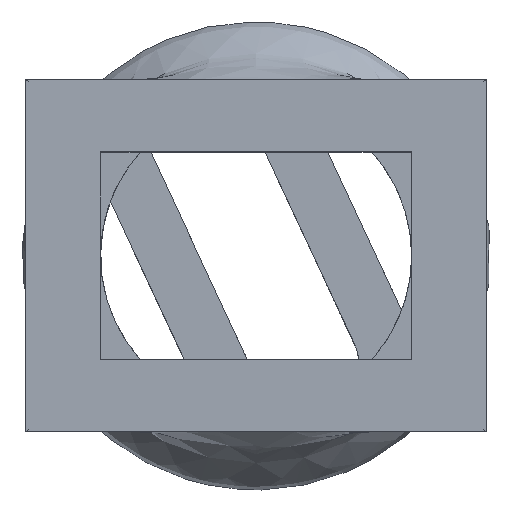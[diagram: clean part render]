
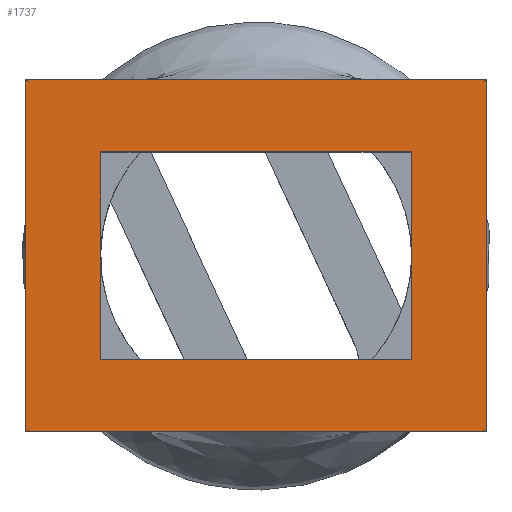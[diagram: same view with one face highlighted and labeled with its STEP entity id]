
A CAD part, top view. The second image highlights one B-rep face of the part: STEP entity #1737.
In plain terms, the highlighted planar face has unit normal (0, 0, 1).
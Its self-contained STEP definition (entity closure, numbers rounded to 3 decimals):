
#298=CARTESIAN_POINT('',(-11.11,-8.5,0.));
#299=VERTEX_POINT('',#298);
#310=CARTESIAN_POINT('',(-11.11,8.5,0.));
#311=VERTEX_POINT('',#310);
#312=CARTESIAN_POINT('',(-11.11,8.5,0.));
#313=DIRECTION('',(0.,-1.,0.));
#314=VECTOR('',#313,17.);
#315=LINE('',#312,#314);
#316=EDGE_CURVE('',#311,#299,#315,.T.);
#491=CARTESIAN_POINT('',(11.11,8.5,0.));
#492=VERTEX_POINT('',#491);
#493=CARTESIAN_POINT('',(11.11,8.5,0.));
#494=DIRECTION('',(-1.,0.,0.));
#495=VECTOR('',#494,22.22);
#496=LINE('',#493,#495);
#497=EDGE_CURVE('',#492,#311,#496,.T.);
#683=CARTESIAN_POINT('',(11.11,-8.5,0.));
#684=VERTEX_POINT('',#683);
#697=CARTESIAN_POINT('',(-11.11,-8.5,0.));
#698=DIRECTION('',(1.,0.,-0.));
#699=VECTOR('',#698,22.22);
#700=LINE('',#697,#699);
#701=EDGE_CURVE('',#299,#684,#700,.T.);
#816=CARTESIAN_POINT('',(11.11,-8.5,0.));
#817=DIRECTION('',(0.,1.,0.));
#818=VECTOR('',#817,17.);
#819=LINE('',#816,#818);
#820=EDGE_CURVE('',#684,#492,#819,.T.);
#1692=CARTESIAN_POINT('',(0.,0.,0.));
#1693=DIRECTION('',(0.,0.,-1.));
#1694=DIRECTION('',(-1.,0.,0.));
#1695=AXIS2_PLACEMENT_3D('',#1692,#1693,#1694);
#1696=PLANE('',#1695);
#1697=CARTESIAN_POINT('',(7.5,-5.,0.));
#1698=VERTEX_POINT('',#1697);
#1699=CARTESIAN_POINT('',(7.5,5.,0.));
#1700=VERTEX_POINT('',#1699);
#1701=CARTESIAN_POINT('',(7.5,-5.,0.));
#1702=DIRECTION('',(0.,1.,0.));
#1703=VECTOR('',#1702,10.);
#1704=LINE('',#1701,#1703);
#1705=EDGE_CURVE('',#1698,#1700,#1704,.T.);
#1706=ORIENTED_EDGE('',*,*,#1705,.F.);
#1707=CARTESIAN_POINT('',(-7.5,-5.,0.));
#1708=VERTEX_POINT('',#1707);
#1709=CARTESIAN_POINT('',(-7.5,-5.,0.));
#1710=DIRECTION('',(1.,0.,-0.));
#1711=VECTOR('',#1710,15.);
#1712=LINE('',#1709,#1711);
#1713=EDGE_CURVE('',#1708,#1698,#1712,.T.);
#1714=ORIENTED_EDGE('',*,*,#1713,.F.);
#1715=CARTESIAN_POINT('',(-7.5,5.,0.));
#1716=VERTEX_POINT('',#1715);
#1717=CARTESIAN_POINT('',(-7.5,5.,0.));
#1718=DIRECTION('',(0.,-1.,0.));
#1719=VECTOR('',#1718,10.);
#1720=LINE('',#1717,#1719);
#1721=EDGE_CURVE('',#1716,#1708,#1720,.T.);
#1722=ORIENTED_EDGE('',*,*,#1721,.F.);
#1723=CARTESIAN_POINT('',(7.5,5.,0.));
#1724=DIRECTION('',(-1.,0.,0.));
#1725=VECTOR('',#1724,15.);
#1726=LINE('',#1723,#1725);
#1727=EDGE_CURVE('',#1700,#1716,#1726,.T.);
#1728=ORIENTED_EDGE('',*,*,#1727,.F.);
#1729=EDGE_LOOP('',(#1706,#1714,#1722,#1728));
#1730=FACE_BOUND('',#1729,.T.);
#1731=ORIENTED_EDGE('',*,*,#820,.T.);
#1732=ORIENTED_EDGE('',*,*,#497,.T.);
#1733=ORIENTED_EDGE('',*,*,#316,.T.);
#1734=ORIENTED_EDGE('',*,*,#701,.T.);
#1735=EDGE_LOOP('',(#1731,#1732,#1733,#1734));
#1736=FACE_BOUND('',#1735,.T.);
#1737=ADVANCED_FACE('',(#1730,#1736),#1696,.F.);
